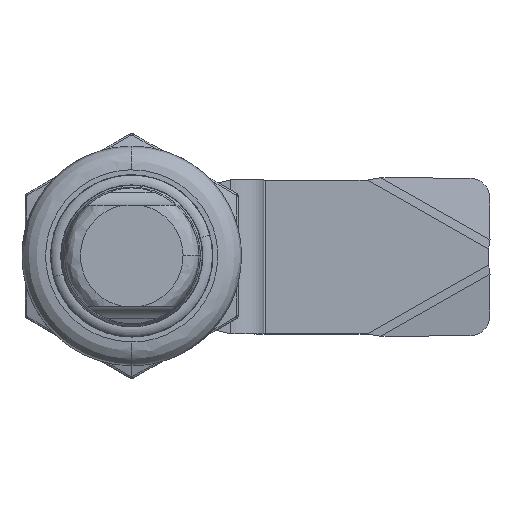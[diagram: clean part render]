
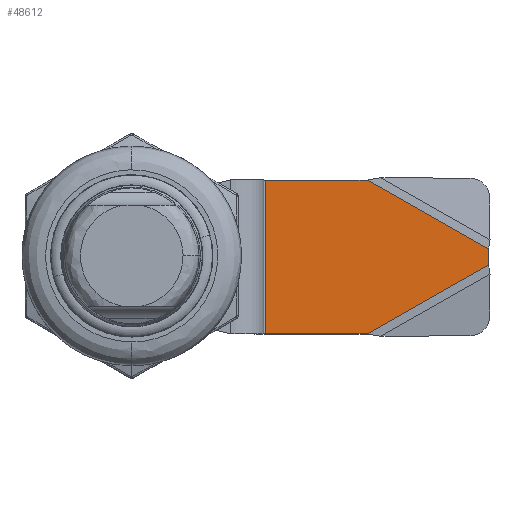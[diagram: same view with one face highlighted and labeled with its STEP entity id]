
A CAD part, top view. The second image highlights one B-rep face of the part: STEP entity #48612.
In plain terms, the highlighted planar face has unit normal (0, 0, 1).
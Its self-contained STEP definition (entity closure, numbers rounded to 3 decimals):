
#2842 = DIRECTION ( 'NONE',  ( 0., 1., 0. ) ) ;
#3739 = VERTEX_POINT ( 'NONE', #65302 ) ;
#4943 = VERTEX_POINT ( 'NONE', #62101 ) ;
#5145 = PLANE ( 'NONE',  #67713 ) ;
#5439 = DIRECTION ( 'NONE',  ( -1., 0., 0. ) ) ;
#5683 = ORIENTED_EDGE ( 'NONE', *, *, #34894, .T. ) ;
#7182 = CARTESIAN_POINT ( 'NONE',  ( 16.907, -9.831, -28.004 ) ) ;
#9331 = DIRECTION ( 'NONE',  ( 0.869, -0.494, 0. ) ) ;
#10705 = LINE ( 'NONE', #21920, #32301 ) ;
#10771 = DIRECTION ( 'NONE',  ( 0., 0., 1. ) ) ;
#11385 = DIRECTION ( 'NONE',  ( 0., -1., 0. ) ) ;
#16019 = CARTESIAN_POINT ( 'NONE',  ( -16.408, -9.831, -28.004 ) ) ;
#16976 = VERTEX_POINT ( 'NONE', #7182 ) ;
#19210 = VECTOR ( 'NONE', #11385, 1000. ) ;
#19683 = LINE ( 'NONE', #54128, #70978 ) ;
#20484 = CARTESIAN_POINT ( 'NONE',  ( -0.944, -27.302, -28.004 ) ) ;
#21920 = CARTESIAN_POINT ( 'NONE',  ( -16.408, 9.669, -28.004 ) ) ;
#23750 = EDGE_CURVE ( 'NONE', #16976, #49218, #33597, .T. ) ;
#25080 = CARTESIAN_POINT ( 'NONE',  ( 45.212, 0.919, -28.004 ) ) ;
#26896 = EDGE_CURVE ( 'NONE', #49218, #3739, #59440, .T. ) ;
#27499 = VECTOR ( 'NONE', #9331, 1000. ) ;
#27827 = CARTESIAN_POINT ( 'NONE',  ( 16.907, 9.669, -28.004 ) ) ;
#28635 = VECTOR ( 'NONE', #43703, 1000. ) ;
#32301 = VECTOR ( 'NONE', #5439, 1000. ) ;
#32887 = LINE ( 'NONE', #49726, #27499 ) ;
#33597 = LINE ( 'NONE', #16019, #66994 ) ;
#34894 = EDGE_CURVE ( 'NONE', #3739, #37877, #19683, .T. ) ;
#37877 = VERTEX_POINT ( 'NONE', #25080 ) ;
#39214 = FACE_OUTER_BOUND ( 'NONE', #41062, .T. ) ;
#41062 = EDGE_LOOP ( 'NONE', ( #64760, #53853, #54747, #71095, #64994, #5683 ) ) ;
#41095 = EDGE_CURVE ( 'NONE', #54661, #16976, #73167, .T. ) ;
#43703 = DIRECTION ( 'NONE',  ( 0.869, 0.494, 0. ) ) ;
#44350 = CARTESIAN_POINT ( 'NONE',  ( 16.907, -0.081, -28.004 ) ) ;
#48612 = ADVANCED_FACE ( 'NONE', ( #39214 ), #5145, .T. ) ;
#49218 = VERTEX_POINT ( 'NONE', #66076 ) ;
#49726 = CARTESIAN_POINT ( 'NONE',  ( -0.944, 27.14, -28.004 ) ) ;
#53853 = ORIENTED_EDGE ( 'NONE', *, *, #59001, .T. ) ;
#54128 = CARTESIAN_POINT ( 'NONE',  ( 45.212, -9.831, -28.004 ) ) ;
#54661 = VERTEX_POINT ( 'NONE', #27827 ) ;
#54747 = ORIENTED_EDGE ( 'NONE', *, *, #41095, .T. ) ;
#54949 = DIRECTION ( 'NONE',  ( 1., 0., 0. ) ) ;
#55689 = CARTESIAN_POINT ( 'NONE',  ( -16.408, -0.081, -28.004 ) ) ;
#57157 = DIRECTION ( 'NONE',  ( 0., 1., 0. ) ) ;
#59001 = EDGE_CURVE ( 'NONE', #4943, #54661, #10705, .T. ) ;
#59440 = LINE ( 'NONE', #20484, #28635 ) ;
#59532 = EDGE_CURVE ( 'NONE', #4943, #37877, #32887, .T. ) ;
#62101 = CARTESIAN_POINT ( 'NONE',  ( 29.809, 9.669, -28.004 ) ) ;
#64760 = ORIENTED_EDGE ( 'NONE', *, *, #59532, .F. ) ;
#64994 = ORIENTED_EDGE ( 'NONE', *, *, #26896, .T. ) ;
#65302 = CARTESIAN_POINT ( 'NONE',  ( 45.212, -1.081, -28.004 ) ) ;
#66076 = CARTESIAN_POINT ( 'NONE',  ( 29.809, -9.831, -28.004 ) ) ;
#66994 = VECTOR ( 'NONE', #54949, 1000. ) ;
#67713 = AXIS2_PLACEMENT_3D ( 'NONE', #55689, #10771, #57157 ) ;
#70978 = VECTOR ( 'NONE', #2842, 1000. ) ;
#71095 = ORIENTED_EDGE ( 'NONE', *, *, #23750, .T. ) ;
#73167 = LINE ( 'NONE', #44350, #19210 ) ;
